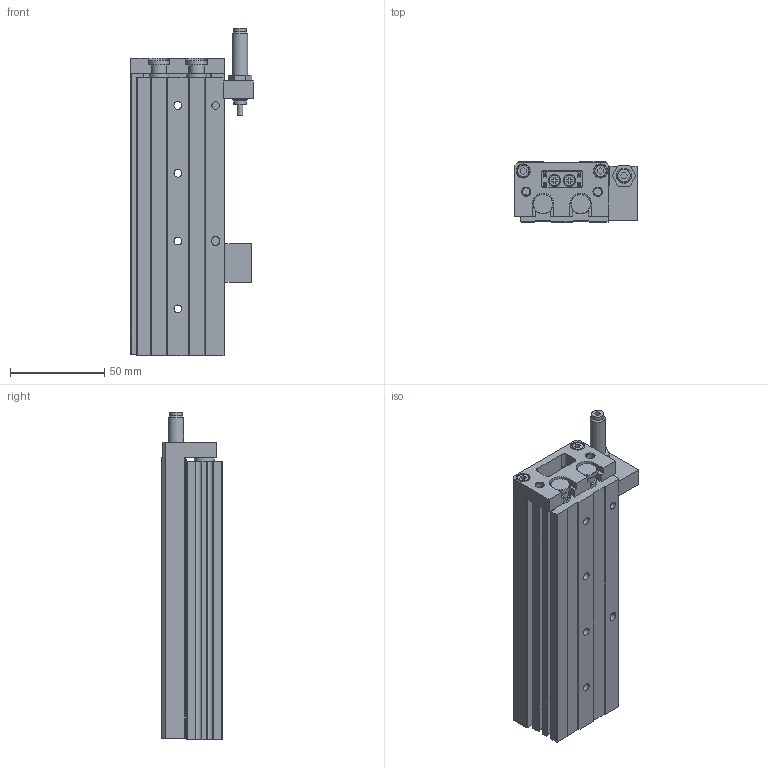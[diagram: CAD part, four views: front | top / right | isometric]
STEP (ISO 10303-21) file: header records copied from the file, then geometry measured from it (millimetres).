
FILE_DESCRIPTION( ( 'STEP AP214' ), '1' );
FILE_NAME( 'C:/Users/EMC02301/Desktop/ELSL图纸/ELSL12X75-S-BS.stp', '2026-08-05T07:40:50', ( 'License CC BY-ND 4.0' ), ( 'CADENAS' ), ' ', 'PARTsolutions', ' ' );
FILE_SCHEMA( ( 'AUTOMOTIVE_DESIGN { 1 0 10303 214 1 1 1 1 }' ) );
Length unit declared in the file: millimetre
Products named in the file (5): ELSL12X75-S-BS(0)(); _ELSL12X75-S-BS(HX-07)(HX-07-1)(0-body); _ELSL12X75-S-BS(0-rod); _FJ-ELS12-BS; _FJ-ELSL12-BS-(BS)
Assembly tree (4 placements, depth 2):
  ELSL12X75-S-BS(0)()
    _ELSL12X75-S-BS(HX-07)(HX-07-1)(0-body)
    _ELSL12X75-S-BS(0-rod)
    _FJ-ELS12-BS
    _FJ-ELSL12-BS-(BS)
Bounding box: 65 x 32 x 174.1 mm (x, y, z)
Volume: 211944 mm3; surface area: 84758.8 mm2
Topology: 4 solids, 4 shells, 507 faces, 1239 edges, 815 vertices
Faces by surface type: plane 378, cylinder 99, cone 28, torus 2
Full cylindrical faces by diameter (mm): 2.9 x1, 3.242 x14, 4 x2, 4.134 x6, 4.2 x4, 4.459 x2, 5.5 x8, 5.933 x2, 6 x4, 6.333 x2, 6.433 x2, 6.5 x8, 6.6 x2, 6.833 x2, 7 x2, 7.5 x2, 8 x2, 9 x8, 10.5 x6, 12 x4, 15.1 x2
Entity records: 18289 total; most frequent: CARTESIAN_POINT 2421, DIRECTION 2369, ORIENTED_EDGE 2218, EDGE_CURVE 1109, LINE 873, VECTOR 873, VERTEX_POINT 800, AXIS2_PLACEMENT_3D 748
